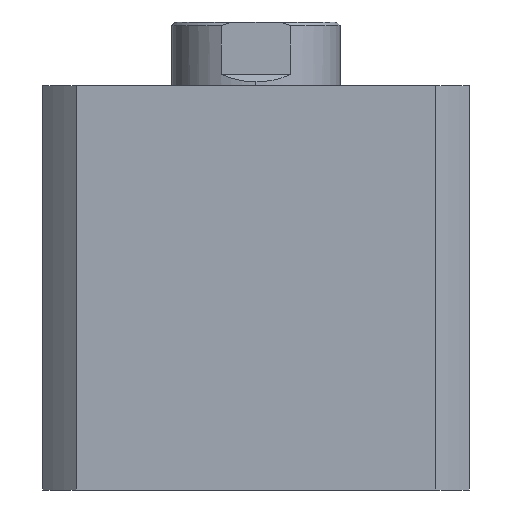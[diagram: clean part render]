
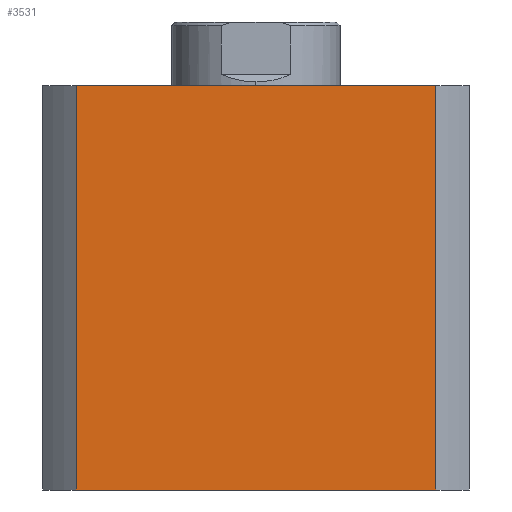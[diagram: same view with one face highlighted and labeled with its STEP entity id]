
A CAD part, left-side view. The second image highlights one B-rep face of the part: STEP entity #3531.
In plain terms, the highlighted planar face has unit normal (-1, 0, 0).
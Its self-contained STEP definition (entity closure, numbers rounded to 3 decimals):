
#98 = CARTESIAN_POINT ( 'NONE',  ( -57., -47.971, 108. ) ) ;
#465 = CARTESIAN_POINT ( 'NONE',  ( -57., 47.971, 108. ) ) ;
#506 = EDGE_LOOP ( 'NONE', ( #910, #914, #920, #922 ) ) ;
#910 = ORIENTED_EDGE ( 'NONE', *, *, #1775, .T. ) ;
#914 = ORIENTED_EDGE ( 'NONE', *, *, #1812, .F. ) ;
#920 = ORIENTED_EDGE ( 'NONE', *, *, #1813, .F. ) ;
#922 = ORIENTED_EDGE ( 'NONE', *, *, #1810, .T. ) ;
#962 = CARTESIAN_POINT ( 'NONE',  ( -57., -47.971, 0. ) ) ;
#1052 = CARTESIAN_POINT ( 'NONE',  ( -57., 47.971, 0. ) ) ;
#1164 = VERTEX_POINT ( 'NONE', #1052 ) ;
#1208 = VERTEX_POINT ( 'NONE', #962 ) ;
#1315 = VERTEX_POINT ( 'NONE', #98 ) ;
#1347 = VERTEX_POINT ( 'NONE', #465 ) ;
#1775 = EDGE_CURVE ( 'NONE', #1164, #1208, #4123, .T. ) ;
#1810 = EDGE_CURVE ( 'NONE', #1347, #1164, #2770, .T. ) ;
#1812 = EDGE_CURVE ( 'NONE', #1315, #1208, #2772, .T. ) ;
#1813 = EDGE_CURVE ( 'NONE', #1347, #1315, #2773, .T. ) ;
#2460 = AXIS2_PLACEMENT_3D ( 'NONE', #4725, #4717, #4716 ) ;
#2770 = LINE ( 'NONE', #3486, #2771 ) ;
#2771 = VECTOR ( 'NONE', #3445, 1000. ) ;
#2772 = LINE ( 'NONE', #3494, #2774 ) ;
#2773 = LINE ( 'NONE', #3463, #2776 ) ;
#2774 = VECTOR ( 'NONE', #3484, 1000. ) ;
#2776 = VECTOR ( 'NONE', #3451, 1000. ) ;
#3046 = FACE_OUTER_BOUND ( 'NONE', #506, .T. ) ;
#3235 = CARTESIAN_POINT ( 'NONE',  ( -57., 0., 0. ) ) ;
#3430 = DIRECTION ( 'NONE',  ( 0., -1., 0. ) ) ;
#3445 = DIRECTION ( 'NONE',  ( 0., 0., -1. ) ) ;
#3451 = DIRECTION ( 'NONE',  ( 0., -1., 0. ) ) ;
#3463 = CARTESIAN_POINT ( 'NONE',  ( -57., 0., 108. ) ) ;
#3484 = DIRECTION ( 'NONE',  ( 0., 0., -1. ) ) ;
#3486 = CARTESIAN_POINT ( 'NONE',  ( -57., 47.971, 108. ) ) ;
#3494 = CARTESIAN_POINT ( 'NONE',  ( -57., -47.971, 108. ) ) ;
#3531 = ADVANCED_FACE ( 'NONE', ( #3046 ), #4720, .F. ) ;
#4123 = LINE ( 'NONE', #3235, #4127 ) ;
#4127 = VECTOR ( 'NONE', #3430, 1000. ) ;
#4716 = DIRECTION ( 'NONE',  ( 0., 0., -1. ) ) ;
#4717 = DIRECTION ( 'NONE',  ( 1., 0., 0. ) ) ;
#4720 = PLANE ( 'NONE',  #2460 ) ;
#4725 = CARTESIAN_POINT ( 'NONE',  ( -57., 0., 108. ) ) ;
